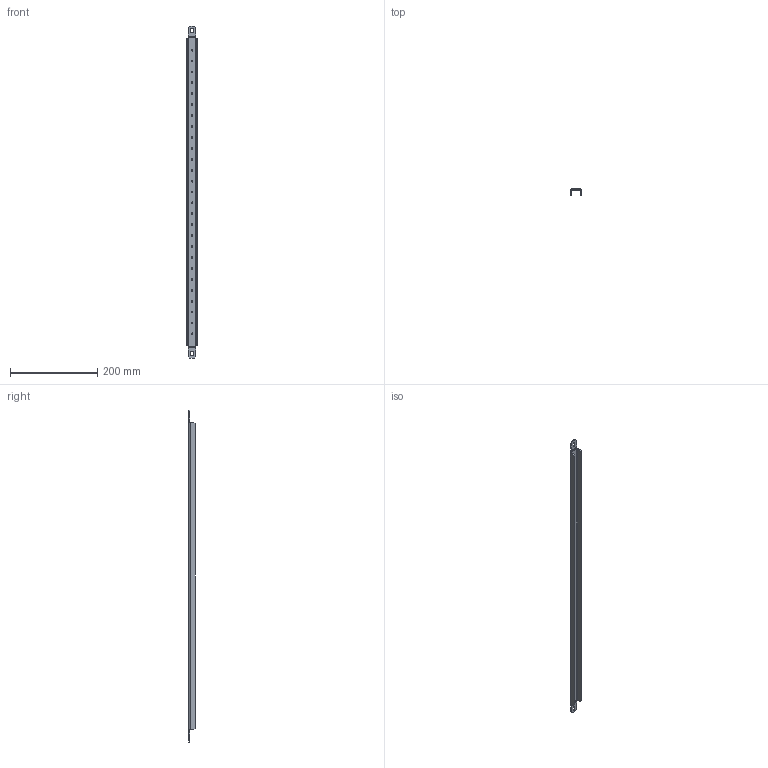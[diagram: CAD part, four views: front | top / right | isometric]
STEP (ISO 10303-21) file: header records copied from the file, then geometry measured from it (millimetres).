
FILE_DESCRIPTION (( 'STEP AP203' ), '1' );
FILE_NAME ('VB 90 G Ðåéêà äëÿ ãëóõîé äâåðè v1.STEP', '2022-08-10T15:43:19', ( '' ), ( '' ), 'SwSTEP 2.0', 'SolidWorks 2018', '' );
FILE_SCHEMA (( 'CONFIG_CONTROL_DESIGN' ));
Length unit declared in the file: millimetre
Products named in the file (1): VB 90 G Ðåéêà äëÿ ãëóõîé äâåðè v1
Bounding box: 25 x 14.5 x 760.31 mm (x, y, z)
Volume: 68356.1 mm3; surface area: 72379.1 mm2
Topology: 1 solids, 1 shells, 130 faces, 336 edges, 208 vertices
Faces by surface type: plane 66, cylinder 64
Entity records: 4137 total; most frequent: DIRECTION 726, CARTESIAN_POINT 675, ORIENTED_EDGE 672, EDGE_CURVE 336, AXIS2_PLACEMENT_3D 259, LINE 208, VECTOR 208, VERTEX_POINT 208
